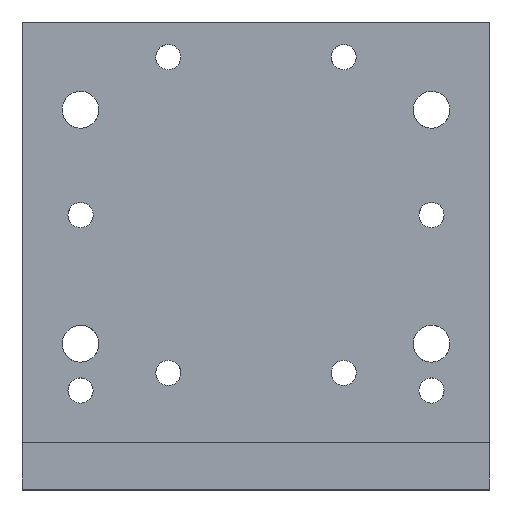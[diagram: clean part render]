
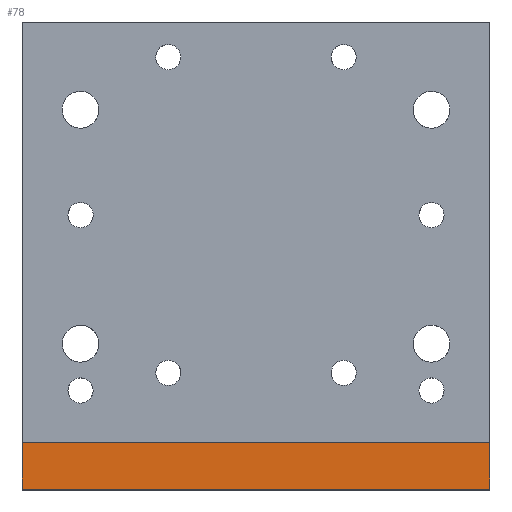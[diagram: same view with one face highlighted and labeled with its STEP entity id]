
A CAD part, top view. The second image highlights one B-rep face of the part: STEP entity #78.
In plain terms, the highlighted planar face has unit normal (0, 0, 1).
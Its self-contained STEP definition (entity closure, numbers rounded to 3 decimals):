
#78=ADVANCED_FACE('',(#157),#1409,.T.);
#157=FACE_OUTER_BOUND('',#248,.T.);
#248=EDGE_LOOP('',(#442,#443,#444,#445));
#442=ORIENTED_EDGE('',*,*,#838,.T.);
#443=ORIENTED_EDGE('',*,*,#833,.F.);
#444=ORIENTED_EDGE('',*,*,#839,.T.);
#445=ORIENTED_EDGE('',*,*,#836,.F.);
#833=EDGE_CURVE('',#1258,#1259,#1191,.T.);
#836=EDGE_CURVE('',#1260,#1261,#1194,.T.);
#838=EDGE_CURVE('',#1260,#1259,#1196,.T.);
#839=EDGE_CURVE('',#1258,#1261,#1197,.T.);
#1191=B_SPLINE_CURVE_WITH_KNOTS('',1,(#2396,#2397),.UNSPECIFIED.,.F.,.F.,
(2,2),(0.,8.),.UNSPECIFIED.);
#1194=B_SPLINE_CURVE_WITH_KNOTS('',1,(#2402,#2403),.UNSPECIFIED.,.F.,.F.,
(2,2),(0.,8.),.UNSPECIFIED.);
#1196=B_SPLINE_CURVE_WITH_KNOTS('',1,(#2406,#2407),.UNSPECIFIED.,.F.,.F.,
(2,2),(0.,80.),.UNSPECIFIED.);
#1197=B_SPLINE_CURVE_WITH_KNOTS('',1,(#2408,#2409),.UNSPECIFIED.,.F.,.F.,
(2,2),(0.,80.),.UNSPECIFIED.);
#1258=VERTEX_POINT('',#2114);
#1259=VERTEX_POINT('',#2115);
#1260=VERTEX_POINT('',#2116);
#1261=VERTEX_POINT('',#2117);
#1409=PLANE('',#1448);
#1448=AXIS2_PLACEMENT_3D('',#1612,#1470,$);
#1470=DIRECTION('',(0.,0.,1.));
#1612=CARTESIAN_POINT('',(-226.114,14.064,80.));
#2114=CARTESIAN_POINT('',(-138.102,22.876,80.));
#2115=CARTESIAN_POINT('',(-138.102,14.876,80.));
#2116=CARTESIAN_POINT('',(-218.102,14.876,80.));
#2117=CARTESIAN_POINT('',(-218.102,22.876,80.));
#2396=CARTESIAN_POINT('',(-138.102,22.876,80.));
#2397=CARTESIAN_POINT('',(-138.102,14.876,80.));
#2402=CARTESIAN_POINT('',(-218.102,14.876,80.));
#2403=CARTESIAN_POINT('',(-218.102,22.876,80.));
#2406=CARTESIAN_POINT('',(-218.102,14.876,80.));
#2407=CARTESIAN_POINT('',(-138.102,14.876,80.));
#2408=CARTESIAN_POINT('',(-138.102,22.876,80.));
#2409=CARTESIAN_POINT('',(-218.102,22.876,80.));
